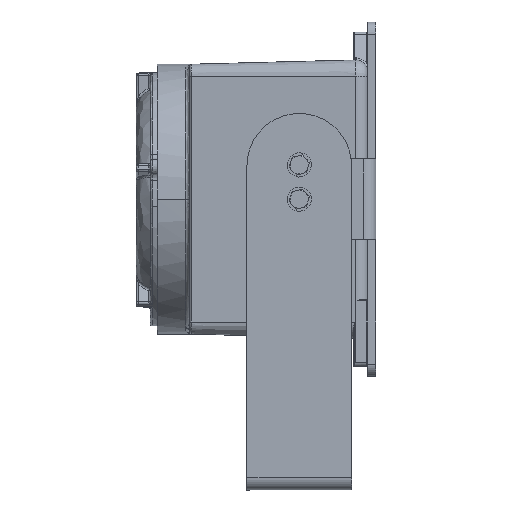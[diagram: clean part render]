
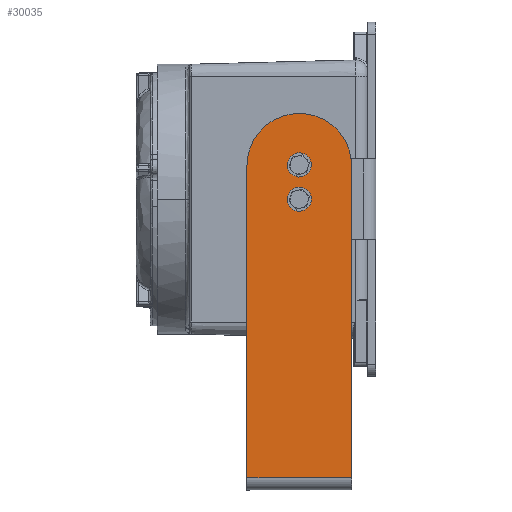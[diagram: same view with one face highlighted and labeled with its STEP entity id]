
A CAD part, left-side view. The second image highlights one B-rep face of the part: STEP entity #30035.
In plain terms, the highlighted planar face has unit normal (-1, 0, 0).
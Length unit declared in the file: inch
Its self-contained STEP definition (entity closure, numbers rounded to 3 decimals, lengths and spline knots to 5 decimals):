
#3743 = EDGE_CURVE ( 'NONE', #102292, #20622, #50453, .T. ) ;
#6739 = LINE ( 'NONE', #103844, #73084 ) ;
#7354 = CARTESIAN_POINT ( 'NONE',  ( -6.1625, -5.595, -1.625 ) ) ;
#7548 = VERTEX_POINT ( 'NONE', #32688 ) ;
#10796 = CIRCLE ( 'NONE', #74622, 1.625 ) ;
#12639 = LINE ( 'NONE', #109067, #133837 ) ;
#13159 = ORIENTED_EDGE ( 'NONE', *, *, #29431, .T. ) ;
#13592 = CARTESIAN_POINT ( 'NONE',  ( -6.1625, 4.12, 0. ) ) ;
#15831 = VERTEX_POINT ( 'NONE', #119982 ) ;
#16677 = DIRECTION ( 'NONE',  ( 1., 0., 0. ) ) ;
#17833 = VERTEX_POINT ( 'NONE', #95410 ) ;
#19519 = DIRECTION ( 'NONE',  ( 1., 0., 0. ) ) ;
#20622 = VERTEX_POINT ( 'NONE', #132781 ) ;
#22539 = DIRECTION ( 'NONE',  ( -1., 0., 0. ) ) ;
#23176 = EDGE_CURVE ( 'NONE', #76215, #17833, #104681, .T. ) ;
#28080 = DIRECTION ( 'NONE',  ( 0., 0., -1. ) ) ;
#28771 = FACE_BOUND ( 'NONE', #33656, .T. ) ;
#29431 = EDGE_CURVE ( 'NONE', #15831, #39904, #12639, .T. ) ;
#30035 = ADVANCED_FACE ( 'NONE', ( #28771, #101783, #100400 ), #111437, .F. ) ;
#32688 = CARTESIAN_POINT ( 'NONE',  ( -6.1625, 5.72, 0. ) ) ;
#33656 = EDGE_LOOP ( 'NONE', ( #70669, #54159 ) ) ;
#34566 = AXIS2_PLACEMENT_3D ( 'NONE', #13592, #47349, #77679 ) ;
#35790 = VECTOR ( 'NONE', #107991, 39.37008 ) ;
#37732 = DIRECTION ( 'NONE',  ( 1., 0., 0. ) ) ;
#39904 = VERTEX_POINT ( 'NONE', #7354 ) ;
#40916 = ORIENTED_EDGE ( 'NONE', *, *, #54386, .T. ) ;
#41465 = AXIS2_PLACEMENT_3D ( 'NONE', #50815, #37732, #28080 ) ;
#41482 = DIRECTION ( 'NONE',  ( 0., 0., -1. ) ) ;
#42983 = CIRCLE ( 'NONE', #126686, 0.1985 ) ;
#46386 = CARTESIAN_POINT ( 'NONE',  ( -6.1625, 4.12, 0. ) ) ;
#47162 = ORIENTED_EDGE ( 'NONE', *, *, #108021, .T. ) ;
#47189 = DIRECTION ( 'NONE',  ( 0., 0., -1. ) ) ;
#47349 = DIRECTION ( 'NONE',  ( 1., 0., 0. ) ) ;
#48422 = DIRECTION ( 'NONE',  ( 0., 0., -1. ) ) ;
#50453 = CIRCLE ( 'NONE', #112000, 0.1985 ) ;
#50583 = CARTESIAN_POINT ( 'NONE',  ( -6.1625, 3.0575, 0. ) ) ;
#50815 = CARTESIAN_POINT ( 'NONE',  ( -6.1625, -5.72, 1.625 ) ) ;
#50831 = DIRECTION ( 'NONE',  ( 0., -1., 0. ) ) ;
#54159 = ORIENTED_EDGE ( 'NONE', *, *, #23176, .T. ) ;
#54386 = EDGE_CURVE ( 'NONE', #7548, #15831, #10796, .T. ) ;
#55512 = CARTESIAN_POINT ( 'NONE',  ( -6.1625, 4.095, 0. ) ) ;
#56017 = ORIENTED_EDGE ( 'NONE', *, *, #88312, .F. ) ;
#57518 = CARTESIAN_POINT ( 'NONE',  ( -6.1625, 3.0575, 0. ) ) ;
#58950 = EDGE_CURVE ( 'NONE', #17833, #76215, #93989, .T. ) ;
#65947 = DIRECTION ( 'NONE',  ( 0., 0., -1. ) ) ;
#70669 = ORIENTED_EDGE ( 'NONE', *, *, #58950, .T. ) ;
#73084 = VECTOR ( 'NONE', #50831, 39.37008 ) ;
#74622 = AXIS2_PLACEMENT_3D ( 'NONE', #55512, #97523, #41482 ) ;
#75611 = CARTESIAN_POINT ( 'NONE',  ( -6.1625, 4.095, 0. ) ) ;
#76154 = AXIS2_PLACEMENT_3D ( 'NONE', #46386, #16677, #48422 ) ;
#76215 = VERTEX_POINT ( 'NONE', #110370 ) ;
#76305 = CARTESIAN_POINT ( 'NONE',  ( -6.1625, -5.595, 1.625 ) ) ;
#76716 = DIRECTION ( 'NONE',  ( 0., -1., 0. ) ) ;
#77679 = DIRECTION ( 'NONE',  ( 0., 0., -1. ) ) ;
#80214 = AXIS2_PLACEMENT_3D ( 'NONE', #75611, #22539, #65947 ) ;
#80615 = ORIENTED_EDGE ( 'NONE', *, *, #3743, .T. ) ;
#81579 = DIRECTION ( 'NONE',  ( 0., 0., -1. ) ) ;
#82619 = EDGE_LOOP ( 'NONE', ( #122293, #47162, #40916, #13159, #56017 ) ) ;
#88312 = EDGE_CURVE ( 'NONE', #95808, #39904, #105308, .T. ) ;
#90562 = ORIENTED_EDGE ( 'NONE', *, *, #109883, .T. ) ;
#93989 = CIRCLE ( 'NONE', #34566, 0.1985 ) ;
#95047 = EDGE_LOOP ( 'NONE', ( #80615, #90562 ) ) ;
#95410 = CARTESIAN_POINT ( 'NONE',  ( -6.1625, 4.12, -0.1985 ) ) ;
#95808 = VERTEX_POINT ( 'NONE', #111573 ) ;
#97523 = DIRECTION ( 'NONE',  ( -1., 0., 0. ) ) ;
#99512 = DIRECTION ( 'NONE',  ( 1., 0., 0. ) ) ;
#100400 = FACE_OUTER_BOUND ( 'NONE', #82619, .T. ) ;
#101707 = EDGE_CURVE ( 'NONE', #120114, #95808, #6739, .T. ) ;
#101783 = FACE_BOUND ( 'NONE', #95047, .T. ) ;
#102292 = VERTEX_POINT ( 'NONE', #127788 ) ;
#103844 = CARTESIAN_POINT ( 'NONE',  ( -6.1625, -5.72, 1.625 ) ) ;
#104681 = CIRCLE ( 'NONE', #76154, 0.1985 ) ;
#105308 = LINE ( 'NONE', #76305, #35790 ) ;
#107991 = DIRECTION ( 'NONE',  ( 0., 0., -1. ) ) ;
#108021 = EDGE_CURVE ( 'NONE', #120114, #7548, #115758, .T. ) ;
#109067 = CARTESIAN_POINT ( 'NONE',  ( -6.1625, -5.72, -1.625 ) ) ;
#109883 = EDGE_CURVE ( 'NONE', #20622, #102292, #42983, .T. ) ;
#110370 = CARTESIAN_POINT ( 'NONE',  ( -6.1625, 4.12, 0.1985 ) ) ;
#111437 = PLANE ( 'NONE',  #41465 ) ;
#111573 = CARTESIAN_POINT ( 'NONE',  ( -6.1625, -5.595, 1.625 ) ) ;
#112000 = AXIS2_PLACEMENT_3D ( 'NONE', #57518, #99512, #47189 ) ;
#115758 = CIRCLE ( 'NONE', #80214, 1.625 ) ;
#119982 = CARTESIAN_POINT ( 'NONE',  ( -6.1625, 4.095, -1.625 ) ) ;
#120114 = VERTEX_POINT ( 'NONE', #130921 ) ;
#122293 = ORIENTED_EDGE ( 'NONE', *, *, #101707, .F. ) ;
#126686 = AXIS2_PLACEMENT_3D ( 'NONE', #50583, #19519, #81579 ) ;
#127788 = CARTESIAN_POINT ( 'NONE',  ( -6.1625, 3.0575, -0.1985 ) ) ;
#130921 = CARTESIAN_POINT ( 'NONE',  ( -6.1625, 4.095, 1.625 ) ) ;
#132781 = CARTESIAN_POINT ( 'NONE',  ( -6.1625, 3.0575, 0.1985 ) ) ;
#133837 = VECTOR ( 'NONE', #76716, 39.37008 ) ;
